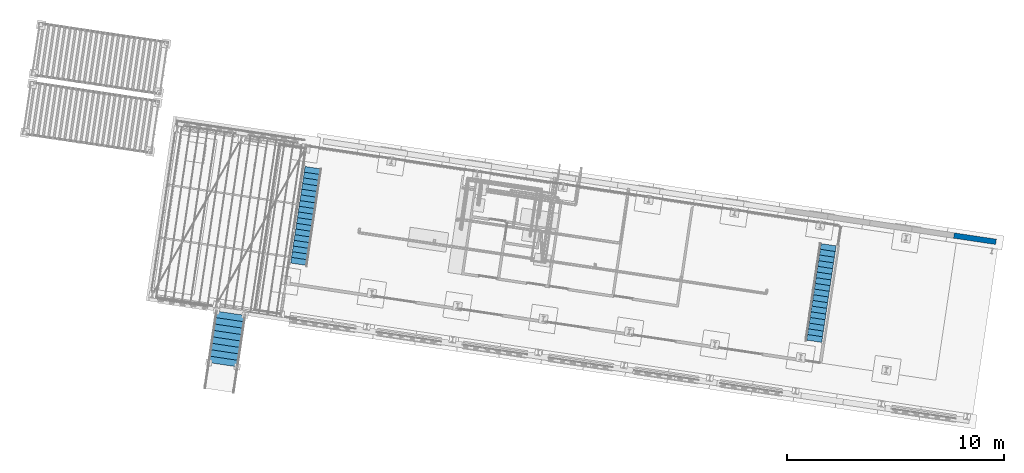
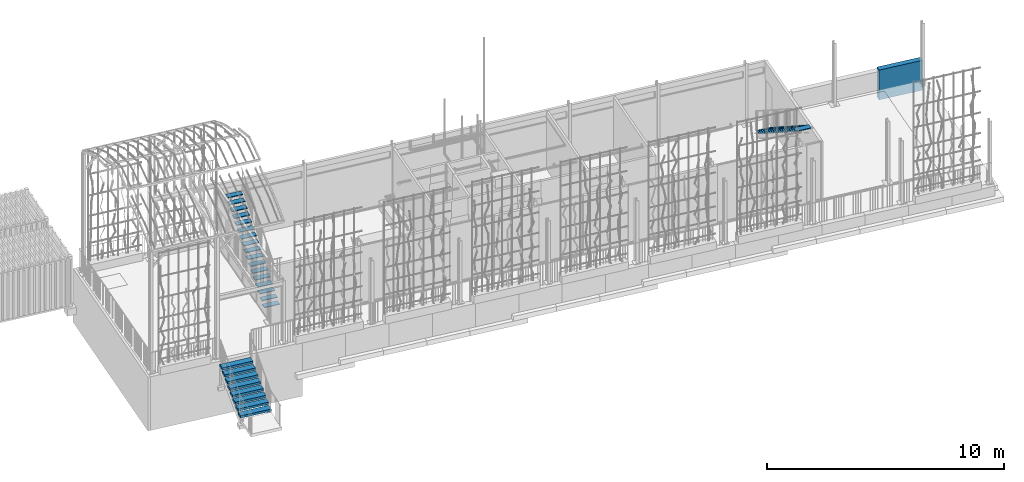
# One storey, part 131 of 142: 3 stair flights, 1 wall, 4 elements without a shape of their own.
"""IFC4 building model written with IfcOpenShell, lengths in metres."""

from ifc_helpers import new_model, si_unit, direction, frame, origin_with_axes, place, context, subcontext, project, spatial, polyline, outline, extrude, material, element, aggregate, save


model = new_model("IFC4")

# Units and contexts
model_context = context("Model", 3, precision=1e-05, world=origin_with_axes(), true_north=direction((0.0, 1.0)))
body_context = subcontext(model_context, "Body", "Model", "MODEL_VIEW")
ifc_project = project(units=[si_unit("VOLUMEUNIT", "CUBIC_METRE"), si_unit("LENGTHUNIT", "METRE"), si_unit("AREAUNIT", "SQUARE_METRE")], contexts=[model_context])

# Site, building, storey
site_placement = place(None, origin_with_axes())
site = spatial("IfcSite", under=ifc_project, at=site_placement, Name="Lares · Rua das Mercês · artigo 4771")
building_placement = place(site_placement, frame((12.0, 10.2, 13.9), z_axis=(0.0, 0.0, 1.0), x_axis=(0.989015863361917, -0.147809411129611, 0.0)))
building = spatial("IfcBuilding", under=site, at=building_placement, Name="Casa Sobreposta")
storey_placement = place(building_placement, origin_with_axes())
storey = spatial("IfcBuildingStorey", under=building, at=storey_placement, Name="00 · Habitação e estacionamento", Elevation=13.9)

# Assembly, wall
assembly_placement = place(storey_placement, origin_with_axes())
assembly = element("IfcElementAssembly", 1, at=assembly_placement, inside=storey, Name="Pódio · projeção da estufa e cisterna", ObjectType="CISTERN_PODIUM", PredefinedType="USERDEFINED")
ifc_material_1 = material(Name="Betão armado / Stahlbeton", Category="concrete")
wall_placement = place(assembly_placement, frame((0.0, 0.0, -0.55), z_axis=(0.0, 0.0, 1.0), x_axis=(1.0, 0.0, 0.0)))
wall = element("IfcWall", 2, at=wall_placement, material=ifc_material_1, Name="Pódio · contenção norte", ObjectType="Pódio · contenção norte", PredefinedType="USERDEFINED", context=body_context, shape_type="SweptSolid", body=[
    extrude(outline(polyline([(32.125, 6.85), (32.125, 6.6), (30.1640625, 6.6), (30.1640625, 6.85), (32.125, 6.85)])), origin_with_axes(), (0.0, 0.0, 1.0), 1.53514470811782),
])
aggregate(assembly, [wall])

# Stair, stair flight
stair_1_placement = place(storey_placement, origin_with_axes())
stair_1 = element("IfcStair", 3, at=stair_1_placement, inside=storey, Name="Escada sala", PredefinedType="STRAIGHT_RUN_STAIR")
ifc_material_2 = material(Name="OSB", Category="wood")
stair_flight_1_placement = place(stair_1_placement, origin_with_axes())
stair_flight_1 = element("IfcStairFlight", 4, at=stair_flight_1_placement, material=ifc_material_2, Name="Lanço sala", NumberOfRisers=18, NumberOfTreads=17, PredefinedType="STRAIGHT", RiserHeight=0.18, TreadLength=0.265, context=body_context, shape_type="SweptSolid", body=[
    extrude(outline(polyline([(0.79, 0.9475), (0.79, 1.2125), (0.09, 1.2125), (0.09, 0.9475), (0.79, 0.9475)])), frame((0.0, 0.0, 0.14), z_axis=(0.0, 0.0, 1.0), x_axis=(1.0, 0.0, 0.0)), (0.0, 0.0, 1.0), 0.04),
    extrude(outline(polyline([(0.79, 1.2125), (0.79, 1.4775), (0.09, 1.4775), (0.09, 1.2125), (0.79, 1.2125)])), frame((0.0, 0.0, 0.32), z_axis=(0.0, 0.0, 1.0), x_axis=(1.0, 0.0, 0.0)), (0.0, 0.0, 1.0), 0.04),
    extrude(outline(polyline([(0.79, 1.4775), (0.79, 1.7425), (0.09, 1.7425), (0.09, 1.4775), (0.79, 1.4775)])), frame((0.0, 0.0, 0.5), z_axis=(0.0, 0.0, 1.0), x_axis=(1.0, 0.0, 0.0)), (0.0, 0.0, 1.0), 0.04),
    extrude(outline(polyline([(0.79, 1.7425), (0.79, 2.0075), (0.09, 2.0075), (0.09, 1.7425), (0.79, 1.7425)])), frame((0.0, 0.0, 0.68), z_axis=(0.0, 0.0, 1.0), x_axis=(1.0, 0.0, 0.0)), (0.0, 0.0, 1.0), 0.04),
    extrude(outline(polyline([(0.79, 2.0075), (0.79, 2.2725), (0.09, 2.2725), (0.09, 2.0075), (0.79, 2.0075)])), frame((0.0, 0.0, 0.86), z_axis=(0.0, 0.0, 1.0), x_axis=(1.0, 0.0, 0.0)), (0.0, 0.0, 1.0), 0.04),
    extrude(outline(polyline([(0.79, 2.2725), (0.79, 2.5375), (0.09, 2.5375), (0.09, 2.2725), (0.79, 2.2725)])), frame((0.0, 0.0, 1.04), z_axis=(0.0, 0.0, 1.0), x_axis=(1.0, 0.0, 0.0)), (0.0, 0.0, 1.0), 0.04),
    extrude(outline(polyline([(0.79, 2.5375), (0.79, 2.8025), (0.09, 2.8025), (0.09, 2.5375), (0.79, 2.5375)])), frame((0.0, 0.0, 1.22), z_axis=(0.0, 0.0, 1.0), x_axis=(1.0, 0.0, 0.0)), (0.0, 0.0, 1.0), 0.04),
    extrude(outline(polyline([(0.79, 2.8025), (0.79, 3.0675), (0.09, 3.0675), (0.09, 2.8025), (0.79, 2.8025)])), frame((0.0, 0.0, 1.4), z_axis=(0.0, 0.0, 1.0), x_axis=(1.0, 0.0, 0.0)), (0.0, 0.0, 1.0), 0.04),
    extrude(outline(polyline([(0.79, 3.0675), (0.79, 3.3325), (0.09, 3.3325), (0.09, 3.0675), (0.79, 3.0675)])), frame((0.0, 0.0, 1.58), z_axis=(0.0, 0.0, 1.0), x_axis=(1.0, 0.0, 0.0)), (0.0, 0.0, 1.0), 0.04),
    extrude(outline(polyline([(0.79, 3.3325), (0.79, 3.5975), (0.09, 3.5975), (0.09, 3.3325), (0.79, 3.3325)])), frame((0.0, 0.0, 1.76), z_axis=(0.0, 0.0, 1.0), x_axis=(1.0, 0.0, 0.0)), (0.0, 0.0, 1.0), 0.04),
    extrude(outline(polyline([(0.79, 3.5975), (0.79, 3.8625), (0.09, 3.8625), (0.09, 3.5975), (0.79, 3.5975)])), frame((0.0, 0.0, 1.94), z_axis=(0.0, 0.0, 1.0), x_axis=(1.0, 0.0, 0.0)), (0.0, 0.0, 1.0), 0.04),
    extrude(outline(polyline([(0.79, 3.8625), (0.79, 4.1275), (0.09, 4.1275), (0.09, 3.8625), (0.79, 3.8625)])), frame((0.0, 0.0, 2.12), z_axis=(0.0, 0.0, 1.0), x_axis=(1.0, 0.0, 0.0)), (0.0, 0.0, 1.0), 0.04),
    extrude(outline(polyline([(0.79, 4.1275), (0.79, 4.3925), (0.09, 4.3925), (0.09, 4.1275), (0.79, 4.1275)])), frame((0.0, 0.0, 2.3), z_axis=(0.0, 0.0, 1.0), x_axis=(1.0, 0.0, 0.0)), (0.0, 0.0, 1.0), 0.04),
    extrude(outline(polyline([(0.79, 4.3925), (0.79, 4.6575), (0.09, 4.6575), (0.09, 4.3925), (0.79, 4.3925)])), frame((0.0, 0.0, 2.48), z_axis=(0.0, 0.0, 1.0), x_axis=(1.0, 0.0, 0.0)), (0.0, 0.0, 1.0), 0.04),
    extrude(outline(polyline([(0.79, 4.6575), (0.79, 4.9225), (0.09, 4.9225), (0.09, 4.6575), (0.79, 4.6575)])), frame((0.0, 0.0, 2.66), z_axis=(0.0, 0.0, 1.0), x_axis=(1.0, 0.0, 0.0)), (0.0, 0.0, 1.0), 0.04),
    extrude(outline(polyline([(0.79, 4.9225), (0.79, 5.1875), (0.09, 5.1875), (0.09, 4.9225), (0.79, 4.9225)])), frame((0.0, 0.0, 2.84), z_axis=(0.0, 0.0, 1.0), x_axis=(1.0, 0.0, 0.0)), (0.0, 0.0, 1.0), 0.04),
    extrude(outline(polyline([(0.79, 5.1875), (0.79, 5.4525), (0.09, 5.4525), (0.09, 5.1875), (0.79, 5.1875)])), frame((0.0, 0.0, 3.02), z_axis=(0.0, 0.0, 1.0), x_axis=(1.0, 0.0, 0.0)), (0.0, 0.0, 1.0), 0.04),
])
aggregate(stair_1, [stair_flight_1])

stair_2_placement = place(storey_placement, origin_with_axes())
stair_2 = element("IfcStair", 5, at=stair_2_placement, inside=storey, Name="Escada garagem", PredefinedType="STRAIGHT_RUN_STAIR")
stair_flight_2_placement = place(stair_2_placement, origin_with_axes())
stair_flight_2 = element("IfcStairFlight", 6, at=stair_flight_2_placement, material=ifc_material_2, Name="Lanço garagem", NumberOfRisers=18, NumberOfTreads=17, PredefinedType="STRAIGHT", RiserHeight=0.18, TreadLength=0.265, context=body_context, shape_type="SweptSolid", body=[
    extrude(outline(polyline([(24.86, 5.1875), (24.86, 5.4525), (24.16, 5.4525), (24.16, 5.1875), (24.86, 5.1875)])), frame((0.0, 0.0, 0.14), z_axis=(0.0, 0.0, 1.0), x_axis=(1.0, 0.0, 0.0)), (0.0, 0.0, 1.0), 0.04),
    extrude(outline(polyline([(24.86, 4.9225), (24.86, 5.1875), (24.16, 5.1875), (24.16, 4.9225), (24.86, 4.9225)])), frame((0.0, 0.0, 0.32), z_axis=(0.0, 0.0, 1.0), x_axis=(1.0, 0.0, 0.0)), (0.0, 0.0, 1.0), 0.04),
    extrude(outline(polyline([(24.86, 4.6575), (24.86, 4.9225), (24.16, 4.9225), (24.16, 4.6575), (24.86, 4.6575)])), frame((0.0, 0.0, 0.5), z_axis=(0.0, 0.0, 1.0), x_axis=(1.0, 0.0, 0.0)), (0.0, 0.0, 1.0), 0.04),
    extrude(outline(polyline([(24.86, 4.3925), (24.86, 4.6575), (24.16, 4.6575), (24.16, 4.3925), (24.86, 4.3925)])), frame((0.0, 0.0, 0.68), z_axis=(0.0, 0.0, 1.0), x_axis=(1.0, 0.0, 0.0)), (0.0, 0.0, 1.0), 0.04),
    extrude(outline(polyline([(24.86, 4.1275), (24.86, 4.3925), (24.16, 4.3925), (24.16, 4.1275), (24.86, 4.1275)])), frame((0.0, 0.0, 0.86), z_axis=(0.0, 0.0, 1.0), x_axis=(1.0, 0.0, 0.0)), (0.0, 0.0, 1.0), 0.04),
    extrude(outline(polyline([(24.86, 3.8625), (24.86, 4.1275), (24.16, 4.1275), (24.16, 3.8625), (24.86, 3.8625)])), frame((0.0, 0.0, 1.04), z_axis=(0.0, 0.0, 1.0), x_axis=(1.0, 0.0, 0.0)), (0.0, 0.0, 1.0), 0.04),
    extrude(outline(polyline([(24.86, 3.5975), (24.86, 3.8625), (24.16, 3.8625), (24.16, 3.5975), (24.86, 3.5975)])), frame((0.0, 0.0, 1.22), z_axis=(0.0, 0.0, 1.0), x_axis=(1.0, 0.0, 0.0)), (0.0, 0.0, 1.0), 0.04),
    extrude(outline(polyline([(24.86, 3.3325), (24.86, 3.5975), (24.16, 3.5975), (24.16, 3.3325), (24.86, 3.3325)])), frame((0.0, 0.0, 1.4), z_axis=(0.0, 0.0, 1.0), x_axis=(1.0, 0.0, 0.0)), (0.0, 0.0, 1.0), 0.04),
    extrude(outline(polyline([(24.86, 3.0675), (24.86, 3.3325), (24.16, 3.3325), (24.16, 3.0675), (24.86, 3.0675)])), frame((0.0, 0.0, 1.58), z_axis=(0.0, 0.0, 1.0), x_axis=(1.0, 0.0, 0.0)), (0.0, 0.0, 1.0), 0.04),
    extrude(outline(polyline([(24.86, 2.8025), (24.86, 3.0675), (24.16, 3.0675), (24.16, 2.8025), (24.86, 2.8025)])), frame((0.0, 0.0, 1.76), z_axis=(0.0, 0.0, 1.0), x_axis=(1.0, 0.0, 0.0)), (0.0, 0.0, 1.0), 0.04),
    extrude(outline(polyline([(24.86, 2.5375), (24.86, 2.8025), (24.16, 2.8025), (24.16, 2.5375), (24.86, 2.5375)])), frame((0.0, 0.0, 1.94), z_axis=(0.0, 0.0, 1.0), x_axis=(1.0, 0.0, 0.0)), (0.0, 0.0, 1.0), 0.04),
    extrude(outline(polyline([(24.86, 2.2725), (24.86, 2.5375), (24.16, 2.5375), (24.16, 2.2725), (24.86, 2.2725)])), frame((0.0, 0.0, 2.12), z_axis=(0.0, 0.0, 1.0), x_axis=(1.0, 0.0, 0.0)), (0.0, 0.0, 1.0), 0.04),
    extrude(outline(polyline([(24.86, 2.0075), (24.86, 2.2725), (24.16, 2.2725), (24.16, 2.0075), (24.86, 2.0075)])), frame((0.0, 0.0, 2.3), z_axis=(0.0, 0.0, 1.0), x_axis=(1.0, 0.0, 0.0)), (0.0, 0.0, 1.0), 0.04),
    extrude(outline(polyline([(24.86, 1.7425), (24.86, 2.0075), (24.16, 2.0075), (24.16, 1.7425), (24.86, 1.7425)])), frame((0.0, 0.0, 2.48), z_axis=(0.0, 0.0, 1.0), x_axis=(1.0, 0.0, 0.0)), (0.0, 0.0, 1.0), 0.04),
    extrude(outline(polyline([(24.86, 1.4775), (24.86, 1.7425), (24.16, 1.7425), (24.16, 1.4775), (24.86, 1.4775)])), frame((0.0, 0.0, 2.66), z_axis=(0.0, 0.0, 1.0), x_axis=(1.0, 0.0, 0.0)), (0.0, 0.0, 1.0), 0.04),
    extrude(outline(polyline([(24.86, 1.2125), (24.86, 1.4775), (24.16, 1.4775), (24.16, 1.2125), (24.86, 1.2125)])), frame((0.0, 0.0, 2.84), z_axis=(0.0, 0.0, 1.0), x_axis=(1.0, 0.0, 0.0)), (0.0, 0.0, 1.0), 0.04),
    extrude(outline(polyline([(24.86, 0.947499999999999), (24.86, 1.2125), (24.16, 1.2125), (24.16, 0.947499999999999), (24.86, 0.947499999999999)])), frame((0.0, 0.0, 3.02), z_axis=(0.0, 0.0, 1.0), x_axis=(1.0, 0.0, 0.0)), (0.0, 0.0, 1.0), 0.04),
])
aggregate(stair_2, [stair_flight_2])

stair_3_placement = place(storey_placement, origin_with_axes())
stair_3 = element("IfcStair", 7, at=stair_3_placement, inside=storey, Name="Jardim · acesso do terraço", PredefinedType="STRAIGHT_RUN_STAIR")
stair_flight_3_placement = place(stair_3_placement, origin_with_axes())
stair_flight_3 = element("IfcStairFlight", 8, at=stair_flight_3_placement, material=ifc_material_1, Name="Jardim · nove espelhos", NumberOfRisers=9, NumberOfTreads=8, PredefinedType="STRAIGHT", RiserHeight=0.156666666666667, TreadLength=0.3, context=body_context, shape_type="SweptSolid", body=[
    extrude(outline(polyline([(-1.6, -2.05), (-1.6, -1.75), (-3.0, -1.75), (-3.0, -2.05), (-1.6, -2.05)])), frame((0.0, 0.0, -0.316666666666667), z_axis=(0.0, 0.0, 1.0), x_axis=(1.0, 0.0, 0.0)), (0.0, 0.0, 1.0), 0.12),
    extrude(outline(polyline([(-1.6, -2.35), (-1.6, -2.05), (-3.0, -2.05), (-3.0, -2.35), (-1.6, -2.35)])), frame((0.0, 0.0, -0.473333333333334), z_axis=(0.0, 0.0, 1.0), x_axis=(1.0, 0.0, 0.0)), (0.0, 0.0, 1.0), 0.12),
    extrude(outline(polyline([(-1.6, -2.65), (-1.6, -2.35), (-3.0, -2.35), (-3.0, -2.65), (-1.6, -2.65)])), frame((0.0, 0.0, -0.63), z_axis=(0.0, 0.0, 1.0), x_axis=(1.0, 0.0, 0.0)), (0.0, 0.0, 1.0), 0.12),
    extrude(outline(polyline([(-1.6, -2.95), (-1.6, -2.65), (-3.0, -2.65), (-3.0, -2.95), (-1.6, -2.95)])), frame((0.0, 0.0, -0.786666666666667), z_axis=(0.0, 0.0, 1.0), x_axis=(1.0, 0.0, 0.0)), (0.0, 0.0, 1.0), 0.12),
    extrude(outline(polyline([(-1.6, -3.25), (-1.6, -2.95), (-3.0, -2.95), (-3.0, -3.25), (-1.6, -3.25)])), frame((0.0, 0.0, -0.943333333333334), z_axis=(0.0, 0.0, 1.0), x_axis=(1.0, 0.0, 0.0)), (0.0, 0.0, 1.0), 0.12),
    extrude(outline(polyline([(-1.6, -3.55), (-1.6, -3.25), (-3.0, -3.25), (-3.0, -3.55), (-1.6, -3.55)])), frame((0.0, 0.0, -1.1), z_axis=(0.0, 0.0, 1.0), x_axis=(1.0, 0.0, 0.0)), (0.0, 0.0, 1.0), 0.12),
    extrude(outline(polyline([(-1.6, -3.85), (-1.6, -3.55), (-3.0, -3.55), (-3.0, -3.85), (-1.6, -3.85)])), frame((0.0, 0.0, -1.25666666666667), z_axis=(0.0, 0.0, 1.0), x_axis=(1.0, 0.0, 0.0)), (0.0, 0.0, 1.0), 0.12),
    extrude(outline(polyline([(-1.6, -4.15), (-1.6, -3.85), (-3.0, -3.85), (-3.0, -4.15), (-1.6, -4.15)])), frame((0.0, 0.0, -1.41333333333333), z_axis=(0.0, 0.0, 1.0), x_axis=(1.0, 0.0, 0.0)), (0.0, 0.0, 1.0), 0.12),
])
aggregate(stair_3, [stair_flight_3])

save(model, "model.ifc")
